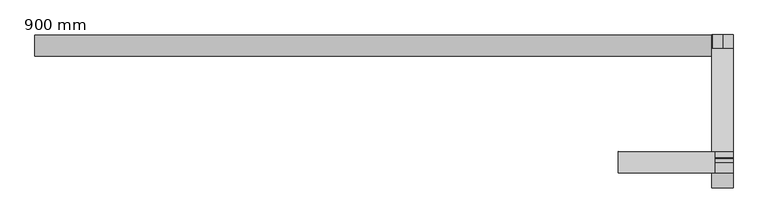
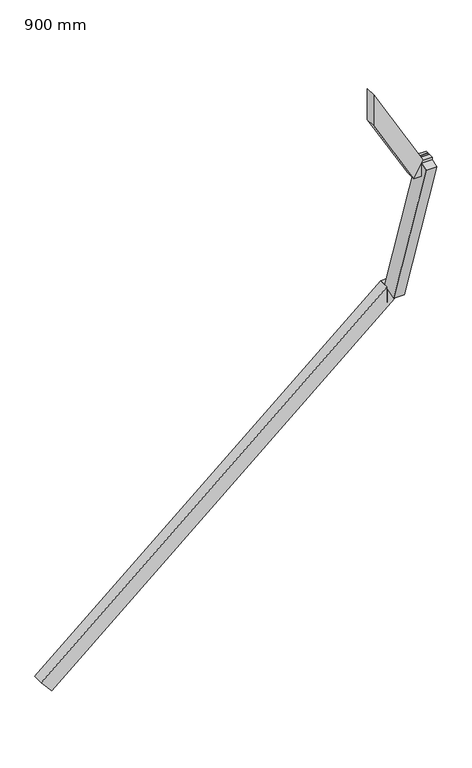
"""IFC4 building model written with IfcOpenShell, lengths in millimetres: railing geometry, 900 mm."""

from ifc_helpers import new_model, si_unit, origin, place, context, project, spatial, faceted_brep, source, transform, mapped, element, save


def railing_900_mm_3181bc36(model_context):
    return source(origin(), model_context, "Body", "Brep", [
        faceted_brep([(-1189.2976233, -2082.6520499, 1070.0), (-1139.6222714, -2082.6520499, 1012.2176548), (-1139.6222714, -2133.4520499, 1012.2176548), (-1189.2976233, -2133.4520499, 1070.0), (436.3479337, -2082.6520499, 2467.5638194), (436.3479337, -2133.4520499, 2467.5638194), (486.0232855, -2133.4520499, 2409.7814742), (486.0232855, -2082.6520499, 2409.7814742)], [[[0, 1, 2, 3]], [[4, 5, 6, 7]], [[1, 0, 4, 7]], [[2, 1, 7, 6]], [[3, 2, 6, 5]], [[0, 3, 5, 4]]]),
        faceted_brep([(436.3479337, -2082.6520499, 2467.5638194), (436.3479337, -2082.6520499, 2391.3638194), (436.3479337, -2133.4520499, 2391.3638194), (436.3479337, -2133.4520499, 2467.5638194), (461.1023767, -2082.6520499, 2467.5638194), (461.1023767, -2133.4520499, 2467.5638194), (461.1023767, -2133.4520499, 2391.3638194), (461.1023767, -2082.6520499, 2391.3638194)], [[[0, 1, 2, 3]], [[4, 5, 6, 7]], [[1, 0, 4, 7]], [[2, 1, 7, 6]], [[3, 2, 6, 5]], [[0, 3, 5, 4]]]),
        faceted_brep([(486.5023767, -2082.6520499, 2467.5638194), (486.5023767, -2082.6520499, 2391.3638194), (435.7023767, -2082.6520499, 2391.3638194), (435.7023767, -2082.6520499, 2467.5638194), (486.5023767, -2115.1036818, 2467.5638194), (435.7023767, -2115.1036818, 2467.5638194), (435.7023767, -2115.1036818, 2391.3638194), (486.5023767, -2115.1036818, 2391.3638194)], [[[0, 1, 2, 3]], [[4, 5, 6, 7]], [[1, 0, 4, 7]], [[2, 1, 7, 6]], [[3, 2, 6, 5]], [[0, 3, 5, 4]]]),
        faceted_brep([(486.5023767, -2115.1036818, 2467.5638194), (486.5023767, -2187.4362106, 2443.5962312), (435.7023767, -2187.4362106, 2443.5962312), (435.7023767, -2115.1036818, 2467.5638194), (486.5023767, -2378.7047175, 3263.0935699), (435.7023767, -2378.7047175, 3263.0935699), (435.7023767, -2451.0372463, 3239.1259817), (486.5023767, -2451.0372463, 3239.1259817)], [[[0, 1, 2, 3]], [[4, 5, 6, 7]], [[1, 0, 4, 7]], [[2, 1, 7, 6]], [[3, 2, 6, 5]], [[0, 3, 5, 4]]]),
        faceted_brep([(486.5023767, -2378.7047175, 3263.0935699), (486.5023767, -2378.7047175, 3186.8935699), (435.7023767, -2378.7047175, 3186.8935699), (435.7023767, -2378.7047175, 3263.0935699), (486.5023767, -2389.0350425, 3263.0935699), (435.7023767, -2389.0350425, 3263.0935699), (435.7023767, -2389.0350425, 3186.8935699), (486.5023767, -2389.0350425, 3186.8935699)], [[[0, 1, 2, 3]], [[4, 5, 6, 7]], [[1, 0, 4, 7]], [[2, 1, 7, 6]], [[3, 2, 6, 5]], [[0, 3, 5, 4]]]),
        faceted_brep([(486.5023767, -2414.4350425, 3263.0935699), (486.5023767, -2414.4350425, 3186.8935699), (486.5023767, -2363.6350425, 3186.8935699), (486.5023767, -2363.6350425, 3263.0935699), (443.2826279, -2414.4350425, 3263.0935699), (399.0679277, -2414.4350425, 3186.8935699), (399.0679277, -2363.6350425, 3186.8935699), (443.2826279, -2363.6350425, 3263.0935699), (210.7023767, -2414.4350425, 3670.0), (210.7023767, -2363.6350425, 3670.0), (210.7023767, -2363.6350425, 3516.4449979), (210.7023767, -2414.4350425, 3516.4449979)], [[[0, 1, 2, 3]], [[1, 0, 4, 5]], [[2, 1, 5, 6]], [[3, 2, 6, 7]], [[0, 3, 7, 4]], [[8, 9, 10, 11]], [[5, 4, 8, 11]], [[6, 5, 11, 10]], [[7, 6, 10, 9]], [[4, 7, 9, 8]]]),
    ])


if __name__ == "__main__":
    model = new_model("IFC4")
    model_context = context("Model", 3, world=origin())
    ifc_project = project(units=[si_unit("LENGTHUNIT", "METRE", prefix="MILLI")], contexts=[model_context])
    site = spatial("IfcSite", under=ifc_project)
    building = spatial("IfcBuilding", under=site)
    placement = place(None, origin())
    railing_900_mm_shape = railing_900_mm_3181bc36(model_context)
    element("IfcRailing", 1, ObjectType="900 mm", at=placement, inside=building, context=model_context, shape_type="MappedRepresentation", body=[
        mapped(railing_900_mm_shape, transform((0.0, 0.0, 0.0), x_axis=(1.0, 0.0, 0.0), y_axis=(0.0, 1.0, 0.0), z_axis=(0.0, 0.0, 1.0))),
    ])
    save(model, "model.ifc")
